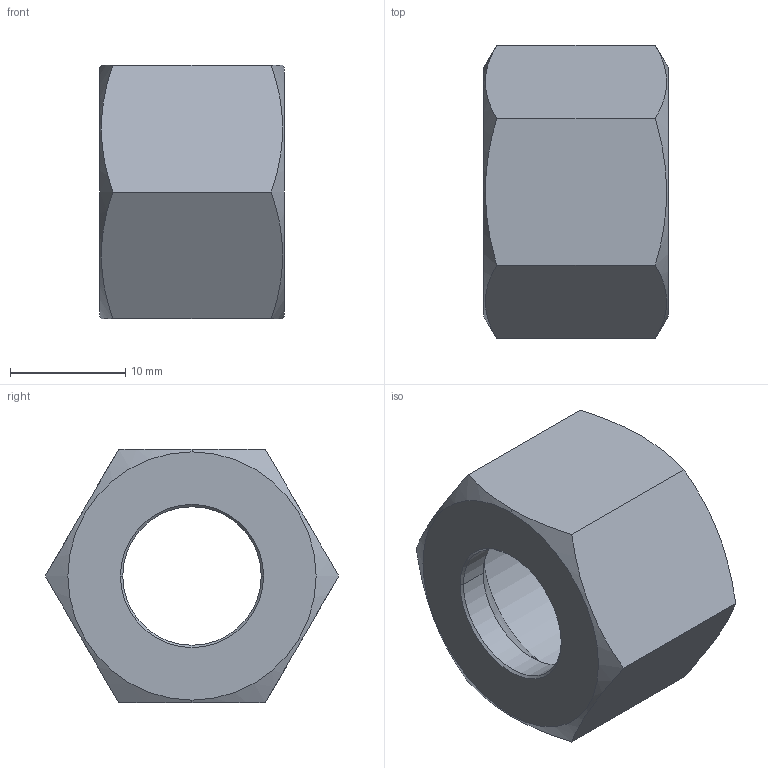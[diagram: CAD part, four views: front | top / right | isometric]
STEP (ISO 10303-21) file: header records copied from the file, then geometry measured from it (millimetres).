
FILE_DESCRIPTION((''),'2;1');
FILE_NAME('100207.stp','2006-03-06T15:11:30',('Dario Falcomer'),('CAST S.p.A.'),'AutoCAD STEP 2000i','AutoCAD 2000i',', , ');
FILE_SCHEMA(('CONFIG_CONTROL_DESIGN'));
Length unit declared in the file: millimetre
Products named in the file (2): 100207.0; CHIAVE_DADI#0
Assembly tree (1 placements, depth 2):
  100207.0
    CHIAVE_DADI#0
Bounding box: 16 x 25.4 x 22 mm (x, y, z)
Volume: 3572.5 mm3; surface area: 2455.3 mm2
Topology: 1 solids, 1 shells, 22 faces, 52 edges, 32 vertices
Faces by surface type: cone 10, plane 8, cylinder 4
Entity records: 725 total; most frequent: CARTESIAN_POINT 140, ORIENTED_EDGE 104, DIRECTION 100, EDGE_CURVE 52, AXIS2_PLACEMENT_3D 40, VERTEX_POINT 32, EDGE_LOOP 24, FACE_OUTER_BOUND 22
